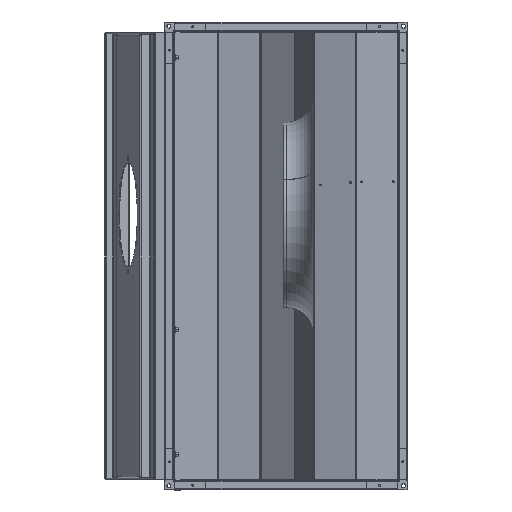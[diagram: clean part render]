
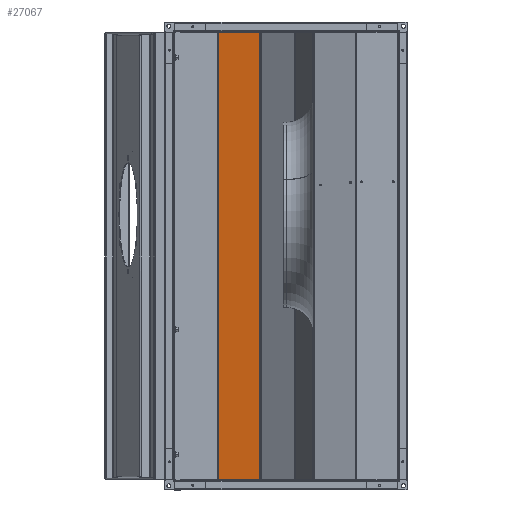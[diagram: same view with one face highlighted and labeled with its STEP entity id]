
A CAD part, left-side view. The second image highlights one B-rep face of the part: STEP entity #27067.
In plain terms, the highlighted planar face has unit normal (-0.983, 0.186, 0).
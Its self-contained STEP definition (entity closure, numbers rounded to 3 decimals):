
#9916 = CARTESIAN_POINT ( 'NONE',  ( 385.069, 307.123, 499. ) ) ;
#9918 = PLANE ( 'NONE',  #18520 ) ;
#9921 = DIRECTION ( 'NONE',  ( -0.983, 0.186, 0. ) ) ;
#9922 = DIRECTION ( 'NONE',  ( -0.186, -0.983, 0. ) ) ;
#10784 = CARTESIAN_POINT ( 'NONE',  ( 385.31, 308.397, 499. ) ) ;
#10785 = DIRECTION ( 'NONE',  ( 0., 0., -1. ) ) ;
#11121 = CARTESIAN_POINT ( 'NONE',  ( 402.904, 401.209, 499. ) ) ;
#11125 = DIRECTION ( 'NONE',  ( 0., 0., -1. ) ) ;
#11196 = CARTESIAN_POINT ( 'NONE',  ( 385.223, 307.935, -496.7 ) ) ;
#11197 = DIRECTION ( 'NONE',  ( 0.186, 0.983, 0. ) ) ;
#13449 = FACE_OUTER_BOUND ( 'NONE', #37406, .T. ) ;
#14002 = LINE ( 'NONE', #22133, #14018 ) ;
#14018 = VECTOR ( 'NONE', #22146, 1000. ) ;
#17475 = VERTEX_POINT ( 'NONE', #19779 ) ;
#17477 = VERTEX_POINT ( 'NONE', #19772 ) ;
#17478 = VERTEX_POINT ( 'NONE', #19780 ) ;
#17492 = VERTEX_POINT ( 'NONE', #19789 ) ;
#18520 = AXIS2_PLACEMENT_3D ( 'NONE', #9916, #9921, #9922 ) ;
#19627 = ORIENTED_EDGE ( 'NONE', *, *, #30270, .F. ) ;
#19644 = ORIENTED_EDGE ( 'NONE', *, *, #33703, .F. ) ;
#19651 = ORIENTED_EDGE ( 'NONE', *, *, #33449, .F. ) ;
#19678 = ORIENTED_EDGE ( 'NONE', *, *, #33653, .T. ) ;
#19772 = CARTESIAN_POINT ( 'NONE',  ( 402.904, 401.209, 496.7 ) ) ;
#19779 = CARTESIAN_POINT ( 'NONE',  ( 385.31, 308.397, 496.7 ) ) ;
#19780 = CARTESIAN_POINT ( 'NONE',  ( 385.31, 308.397, -496.7 ) ) ;
#19789 = CARTESIAN_POINT ( 'NONE',  ( 402.904, 401.209, -496.7 ) ) ;
#22133 = CARTESIAN_POINT ( 'NONE',  ( 402.904, 401.209, 496.7 ) ) ;
#22146 = DIRECTION ( 'NONE',  ( -0.186, -0.983, 0. ) ) ;
#27067 = ADVANCED_FACE ( 'NONE', ( #13449 ), #9918, .T. ) ;
#28644 = LINE ( 'NONE', #10784, #28645 ) ;
#28645 = VECTOR ( 'NONE', #10785, 1000. ) ;
#28808 = LINE ( 'NONE', #11121, #28823 ) ;
#28823 = VECTOR ( 'NONE', #11125, 1000. ) ;
#28862 = LINE ( 'NONE', #11196, #28864 ) ;
#28864 = VECTOR ( 'NONE', #11197, 1000. ) ;
#30270 = EDGE_CURVE ( 'NONE', #17477, #17475, #14002, .T. ) ;
#33449 = EDGE_CURVE ( 'NONE', #17475, #17478, #28644, .T. ) ;
#33653 = EDGE_CURVE ( 'NONE', #17477, #17492, #28808, .T. ) ;
#33703 = EDGE_CURVE ( 'NONE', #17478, #17492, #28862, .T. ) ;
#37406 = EDGE_LOOP ( 'NONE', ( #19678, #19644, #19651, #19627 ) ) ;
